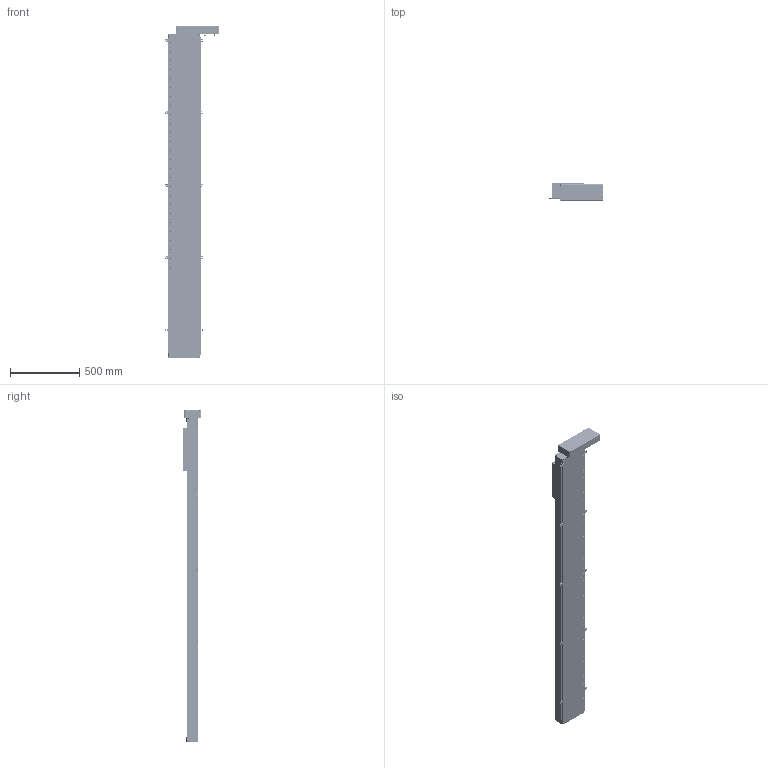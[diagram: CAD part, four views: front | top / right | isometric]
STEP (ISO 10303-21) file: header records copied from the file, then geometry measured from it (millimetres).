
FILE_DESCRIPTION (( 'STEP AP203' ), '1' );
FILE_NAME ('TRS225_BN01_SM1879.600_TRS-491683-1.step', '2025-06-27T14:54:49', ( '' ), ( '' ), 'SwSTEP 2.0', 'SolidWorks 2024', '' );
FILE_SCHEMA (( 'CONFIG_CONTROL_DESIGN' ));
Products named in the file (7): 81639802_TRS225_BN01_SM1879.600_TRS-491683-1; 06049372_TRS225_BN01_SM1879.600_TRS-491683-1_BN01; Base_TRS225_BN01_SM1879.600_TRS-491683-1; tempJoin0_06049366_TRS225_BN01_SM1879.600_TRS-491683-1; tempJoin0_06049358_TRS225_BN01_SM1879.600_TRS-491683-1; TRS225_BN01_SM1879.600_TRS-491683-1; 81009800_TRS225_BN01_SM1879.600_TRS-491683-1
Assembly tree (17 placements, depth 2):
  TRS225_BN01_SM1879.600_TRS-491683-1
    tempJoin0_06049366_TRS225_BN01_SM1879.600_TRS-491683-1
    81639802_TRS225_BN01_SM1879.600_TRS-491683-1  x10
    06049372_TRS225_BN01_SM1879.600_TRS-491683-1_BN01
    81009800_TRS225_BN01_SM1879.600_TRS-491683-1  x3
    tempJoin0_06049358_TRS225_BN01_SM1879.600_TRS-491683-1
    Base_TRS225_BN01_SM1879.600_TRS-491683-1
Bounding box: 389.85 x 126.5 x 2395.49 mm (x, y, z)
Volume: 21965201.7 mm3; surface area: 5730517.4 mm2
Topology: 22 solids, 181 shells, 6626 faces, 16121 edges, 10240 vertices
Faces by surface type: plane 3251, cylinder 2202, cone 704, bspline 203, torus 148, sphere 118
Full cylindrical faces by diameter (mm): 1 x6, 1.194 x16, 1.587 x1, 1.588 x1, 2.25 x6, 2.5 x12, 3 x10, 3.175 x10, 3.242 x18, 3.3 x32, 3.91 x8, 4 x30, 4.254 x12, 4.3 x2, 4.5 x18, 4.917 x24, 4.93 x16, 5 x110, 5.5 x8, 5.69 x2, 5.999 x4, 6 x42, 6.013 x2, 6.35 x2, 6.4 x4, 6.6 x17, 6.7 x8, 6.701 x19, 6.706 x16, 6.8 x116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
Entity records: 176942 total; most frequent: CARTESIAN_POINT 45084, DIRECTION 27579, ORIENTED_EDGE 23920, EDGE_CURVE 11960, AXIS2_PLACEMENT_3D 10584, EDGE_LOOP 8827, VERTEX_POINT 8625, FACE_OUTER_BOUND 7192
